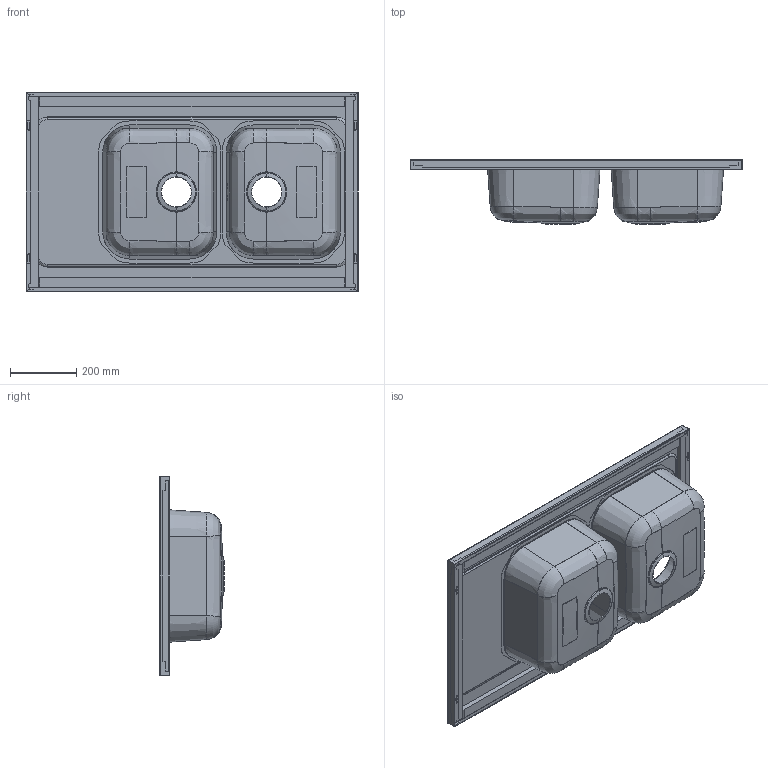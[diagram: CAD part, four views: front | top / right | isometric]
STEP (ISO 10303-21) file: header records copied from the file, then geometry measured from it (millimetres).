
FILE_DESCRIPTION((''),'2;1');
FILE_NAME('1112283-POM-CLA070R-SAI--90_ASM','2020-04-09T',('rafaelz'),('Audax d.o.o.'),'PRO/ENGINEER BY PARAMETRIC TECHNOLOGY CORPORATION, 2017170','PRO/ENGINEER BY PARAMETRIC TECHNOLOGY CORPORATION, 2017170','');
FILE_SCHEMA(('CONFIG_CONTROL_DESIGN'));
Length unit declared in the file: millimetre
Products named in the file (9): 1112291-OKVIR-1000X600-2Q_AF0; 1008048-POS-340X400-180Q-D9_AF0; 1008072-POS-340X400-180Q-D-_AF0; 1018622-OBLOGA-DNA-160X60X2_AF0; 1018622-OBLOGA-DNA-160X60X2_AF1; 1112289-OKV-S-POS-CLA070_ASM; 1022847-LETEV-PREDNJA-ZADNJA; 1022849-LETEV-STRANSKA; 1112283-POM-CLA070R-SAI--90_ASM
Assembly tree (10 placements, depth 3):
  1112283-POM-CLA070R-SAI--90_ASM
    1112289-OKV-S-POS-CLA070_ASM
      1112291-OKVIR-1000X600-2Q_AF0
      1008048-POS-340X400-180Q-D9_AF0
      1008072-POS-340X400-180Q-D-_AF0
      1018622-OBLOGA-DNA-160X60X2_AF0
      1018622-OBLOGA-DNA-160X60X2_AF1
    1022847-LETEV-PREDNJA-ZADNJA  x2
    1022849-LETEV-STRANSKA  x2
Bounding box: 1000 x 194.3 x 600 mm (x, y, z)
Volume: 2811682.2 mm3; surface area: 2697175 mm2
Topology: 9 solids, 9 shells, 522 faces, 1248 edges, 752 vertices
Faces by surface type: plane 200, cylinder 124, torus 72, cone 60, bspline 40, sphere 16, extrusion 10
Entity records: 21146 total; most frequent: CARTESIAN_POINT 9426, DIRECTION 2495, ORIENTED_EDGE 2374, EDGE_CURVE 1187, AXIS2_PLACEMENT_3D 941, VERTEX_POINT 712, VECTOR 613, LINE 603
